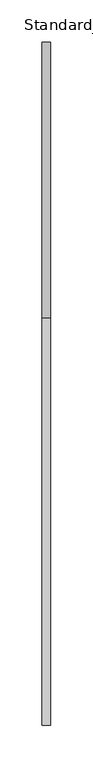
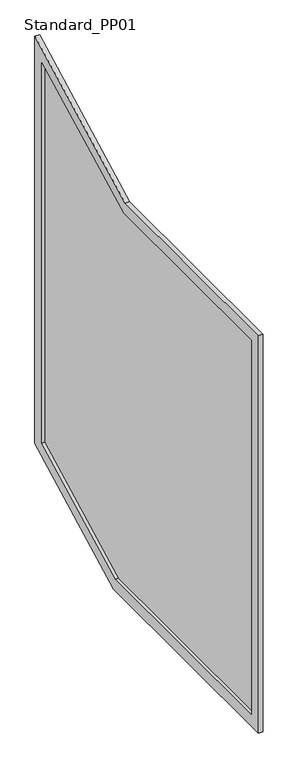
"""IFC4 building model written with IfcOpenShell, lengths in millimetres: railing geometry, Baluster-Landing-Panel-VIVA-STRUC-Upper : Standard_PP01."""

import ifcopenshell
import ifcopenshell.guid

model = None  # the IFC model being written
_history = None  # IfcOwnerHistory: only IFC2X3 demands one
_inside = {}  # id of a spatial element -> (the spatial element, [elements in it])
_under = {}  # id of a project, library or spatial element -> (it, [spatial elements below it])
_declared = {}  # id of a project -> (the project, [libraries it declares])
_typed = {}  # id of a type object -> (the type object, [elements of that type])
_made_of = {}  # id of a material, layer set ... -> (it, [elements and type objects made of it])


def new_model(schema):
    """Start an empty IFC model of exactly this schema.

    Asked for "IFC4X3", IfcOpenShell would pick the latest addendum, in which some entities
    have other attributes; the version numbers below select the first issue.
    IFC2X3 requires an IfcOwnerHistory on every rooted entity: one is made here for all.
    """
    global model, _history
    if schema == "IFC4X3":
        model = ifcopenshell.file(schema_version=(4, 3, 0, 0))
    else:
        model = ifcopenshell.file(schema=schema)
    _inside.clear()
    _under.clear()
    _declared.clear()
    _typed.clear()
    _made_of.clear()
    _history = None
    if model.schema == "IFC2X3":
        org = make("IfcOrganization", Name="unknown")
        user = make(
            "IfcPersonAndOrganization",
            ThePerson=make("IfcPerson", FamilyName="unknown"),
            TheOrganization=org,
        )
        app = make(
            "IfcApplication",
            ApplicationDeveloper=org,
            Version="unknown",
            ApplicationFullName="unknown",
            ApplicationIdentifier="unknown",
        )
        _history = make(
            "IfcOwnerHistory",
            OwningUser=user,
            OwningApplication=app,
            ChangeAction="ADDED",
            CreationDate=0,
        )
    return model


def make(cls, **values):
    """One entity of the class cls with the attributes given. An attribute that is None is left unset."""
    return model.create_entity(
        cls, **{name: value for name, value in values.items() if value is not None}
    )


def rooted(cls, **values):
    """An entity with a GlobalId (a new one), such as an element, a storey or a relation."""
    return make(cls, GlobalId=ifcopenshell.guid.new(), OwnerHistory=_history, **values)


def si_unit(unit_type, name, prefix=None):
    """IfcSIUnit, for example si_unit("LENGTHUNIT", "METRE", prefix="MILLI")."""
    return make("IfcSIUnit", UnitType=unit_type, Prefix=prefix, Name=name)


def assignment(units):
    """IfcUnitAssignment: the units of a project."""
    return None if units is None else make("IfcUnitAssignment", Units=units)


def point(xyz):
    """IfcCartesianPoint."""
    return None if xyz is None else make("IfcCartesianPoint", Coordinates=xyz)


def direction(xyz):
    """IfcDirection."""
    return None if xyz is None else make("IfcDirection", DirectionRatios=xyz)


def frame(location, z_axis=None, x_axis=None):
    """IfcAxis2Placement3D, a coordinate frame: its origin and axes. An axis left out is left unset."""
    return make(
        "IfcAxis2Placement3D",
        Location=point(location),
        Axis=direction(z_axis),
        RefDirection=direction(x_axis),
    )


def origin():
    """The frame at (0, 0, 0) with its axes left unset."""
    return frame((0.0, 0.0, 0.0))


def place(relative_to, where):
    """IfcLocalPlacement: puts the frame where relative to a parent placement (None: the world)."""
    return make(
        "IfcLocalPlacement", PlacementRelTo=relative_to, RelativePlacement=where
    )


def context(
    kind, dimensions, precision=None, world=None, true_north=None, identifier=None
):
    """IfcGeometricRepresentationContext, for example the 3D "Model" context."""
    return make(
        "IfcGeometricRepresentationContext",
        ContextIdentifier=identifier,
        ContextType=kind,
        CoordinateSpaceDimension=dimensions,
        Precision=precision,
        WorldCoordinateSystem=world,
        TrueNorth=true_north,
    )


def project(units=None, contexts=None):
    """IfcProject with its units and contexts."""
    return rooted(
        "IfcProject",
        Name="project",
        RepresentationContexts=contexts,
        UnitsInContext=assignment(units),
    )


def spatial(cls, under=None, at=None, **own):
    """A site, building, storey or space (cls), placed at a placement, below another one or the project."""
    s = rooted(cls, ObjectPlacement=at, **own)
    if under is not None:
        _under.setdefault(under.id(), (under, []))[1].append(s)
    return s


def polyline(points):
    """IfcPolyline through the points."""
    return make("IfcPolyline", Points=[point(p) for p in points])


def outline(outer, holes=None, kind="AREA"):
    """IfcArbitraryClosedProfileDef: a profile drawn as a closed curve; with holes, ...WithVoids."""
    if holes is None:
        return make("IfcArbitraryClosedProfileDef", ProfileType=kind, OuterCurve=outer)
    return make(
        "IfcArbitraryProfileDefWithVoids",
        ProfileType=kind,
        OuterCurve=outer,
        InnerCurves=holes,
    )


def extrude(swept, where, along, depth):
    """IfcExtrudedAreaSolid: the profile swept, set in the frame where, extruded along a direction by depth."""
    return make(
        "IfcExtrudedAreaSolid",
        SweptArea=swept,
        Position=where,
        ExtrudedDirection=direction(along),
        Depth=depth,
    )


def shape(context_of_items, identifier, shape_type, items):
    """IfcShapeRepresentation: the items that make up one representation, for example the "Body"."""
    return make(
        "IfcShapeRepresentation",
        ContextOfItems=context_of_items,
        RepresentationIdentifier=identifier,
        RepresentationType=shape_type,
        Items=items,
    )


def source(mapping_origin, context_of_items, identifier, shape_type, items):
    """IfcRepresentationMap: a shape defined once, which mapped items show again and again."""
    return make(
        "IfcRepresentationMap",
        MappingOrigin=mapping_origin,
        MappedRepresentation=shape(context_of_items, identifier, shape_type, items),
    )


def transform(
    local_origin,
    x_axis=None,
    y_axis=None,
    z_axis=None,
    scale=None,
    scale2=None,
    scale3=None,
    uniform=True,
):
    """IfcCartesianTransformationOperator3D, or its non-uniform kind. x_axis, y_axis, z_axis: its Axis1, 2, 3."""
    if uniform:
        return make(
            "IfcCartesianTransformationOperator3D",
            Axis1=direction(x_axis),
            Axis2=direction(y_axis),
            LocalOrigin=point(local_origin),
            Scale=scale,
            Axis3=direction(z_axis),
        )
    return make(
        "IfcCartesianTransformationOperator3DnonUniform",
        Axis1=direction(x_axis),
        Axis2=direction(y_axis),
        LocalOrigin=point(local_origin),
        Scale=scale,
        Axis3=direction(z_axis),
        Scale2=scale2,
        Scale3=scale3,
    )


def mapped(mapping_source, mapping_target):
    """IfcMappedItem: shows the shape of a source again, moved by a transform."""
    return make(
        "IfcMappedItem", MappingSource=mapping_source, MappingTarget=mapping_target
    )


def made_of(thing, what):
    """Note that an element or type object is made of a material, layer set ...; save() writes the relation."""
    if what is not None:
        _made_of.setdefault(what.id(), (what, []))[1].append(thing)
    return thing


def element(
    cls,
    number,
    at=None,
    inside=None,
    cuts=None,
    type_object=None,
    material=None,
    context=None,
    identifier="Body",
    shape_type=None,
    held_by="IfcProductDefinitionShape",
    body=None,
    shapes=None,
    **own,
):
    """One element of the class cls, such as IfcWall. Its Tag is "e" and its number.

    at: its placement. inside: the storey or other place that contains it. cuts: it is an
    opening in that element (IfcRelVoidsElement). A single representation is given by context,
    identifier, shape_type and body (its items); several are given by shapes. held_by: the class
    of the entity that holds the representations. save() writes the other relations.
    """
    e = rooted(cls, Tag="e%d" % number, ObjectPlacement=at, **own)
    if body is not None:
        shapes = [shape(context, identifier, shape_type, body)]
    if shapes is not None:
        e.Representation = make(held_by, Representations=shapes)
    if inside is not None:
        _inside.setdefault(inside.id(), (inside, []))[1].append(e)
    if cuts is not None:
        rooted(
            "IfcRelVoidsElement", RelatingBuildingElement=cuts, RelatedOpeningElement=e
        )
    if type_object is not None:
        _typed.setdefault(type_object.id(), (type_object, []))[1].append(e)
    return made_of(e, material)


def aggregate(whole, parts):
    """IfcRelAggregates: a whole, such as a stair, and the parts it consists of."""
    return rooted("IfcRelAggregates", RelatingObject=whole, RelatedObjects=parts)


def save(model, path):
    """Write the relations noted so far, then the file.

    IfcRelAggregates (storeys below a building ...), IfcRelContainedInSpatialStructure (elements
    in a storey), IfcRelDefinesByType, IfcRelAssociatesMaterial and IfcRelDeclares: one each for
    every whole, place, type object, material and project.
    """
    for whole, parts in _under.values():
        aggregate(whole, parts)
    for where, things in _inside.values():
        rooted(
            "IfcRelContainedInSpatialStructure",
            RelatedElements=things,
            RelatingStructure=where,
        )
    for kind, things in _typed.values():
        rooted("IfcRelDefinesByType", RelatedObjects=things, RelatingType=kind)
    for what, things in _made_of.values():
        rooted("IfcRelAssociatesMaterial", RelatedObjects=things, RelatingMaterial=what)
    for by, libraries in _declared.values():
        rooted("IfcRelDeclares", RelatingContext=by, RelatedDefinitions=libraries)
    model.write(path)


def standard_pp01_feaec1d1(model_context):
    return source(origin(), model_context, "Body", "SweptSolid", [
        extrude(outline(polyline([(206.7060559, 91.4601304), (206.7060559, 911.0218), (666.564764, 911.0218), (959.3372584, 1063.4295139), (959.3372584, 229.1131232), (694.9083194, 91.4601304), (206.7060559, 91.4601304)])), frame((62.2681, 0.0, 0.0), z_axis=(1.0, 0.0, 0.0), x_axis=(0.0, 1.0, 0.0)), (0.0, 0.0, 1.0), 2.9972),
        extrude(outline(polyline([(984.7372584, 213.7000248), (701.1236599, 66.0601304), (181.3060559, 66.0601304), (181.3060559, 936.4218), (660.3494236, 936.4218), (984.7372584, 1105.2874184), (984.7372584, 213.7000248)]), holes=[polyline([(206.7060559, 911.0218), (206.7060559, 91.4601304), (694.9083194, 91.4601304), (959.3372584, 229.1131232), (959.3372584, 1063.4295139), (666.564764, 911.0218), (206.7060559, 911.0218)])]), frame((55.7403, 0.0, 0.0), z_axis=(1.0, 0.0, 0.0), x_axis=(0.0, 1.0, 0.0)), (0.0, 0.0, 1.0), 9.525),
    ])


if __name__ == "__main__":
    model = new_model("IFC4")
    model_context = context("Model", 3, world=origin())
    ifc_project = project(units=[si_unit("LENGTHUNIT", "METRE", prefix="MILLI")], contexts=[model_context])
    site = spatial("IfcSite", under=ifc_project)
    building = spatial("IfcBuilding", under=site)
    placement = place(None, origin())
    standard_pp01_shape = standard_pp01_feaec1d1(model_context)
    element("IfcRailing", 1, ObjectType="Baluster-Landing-Panel-VIVA-STRUC-Upper : Standard_PP01", at=placement, inside=building, context=model_context, shape_type="MappedRepresentation", body=[
        mapped(standard_pp01_shape, transform((0.0, 0.0, 0.0), x_axis=(1.0, 0.0, 0.0), y_axis=(0.0, 1.0, 0.0), z_axis=(0.0, 0.0, 1.0))),
    ])
    save(model, "model.ifc")
